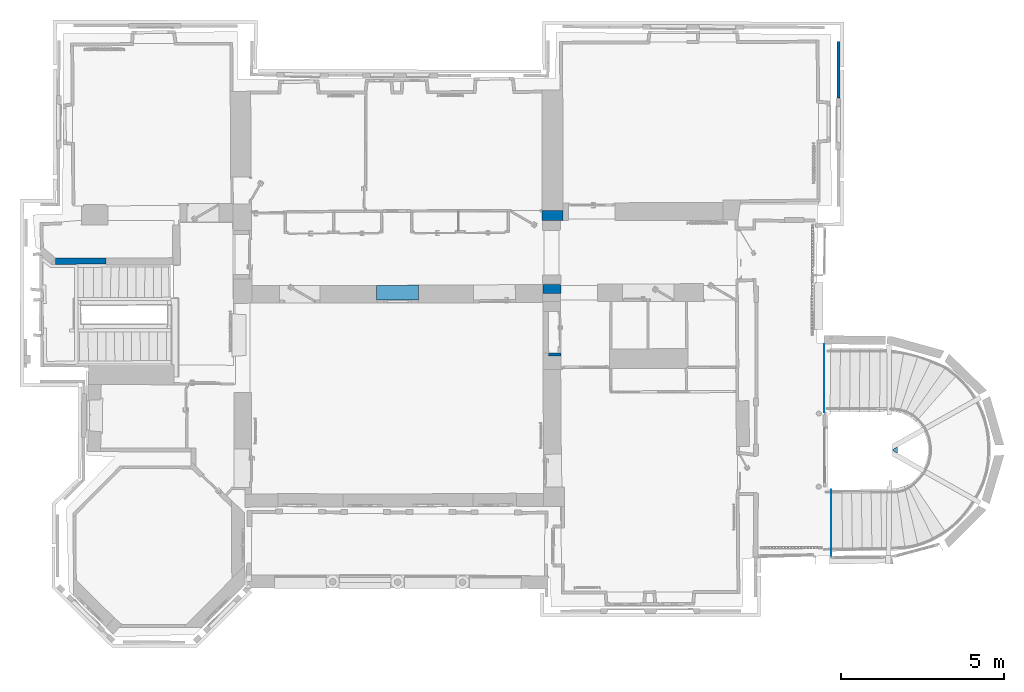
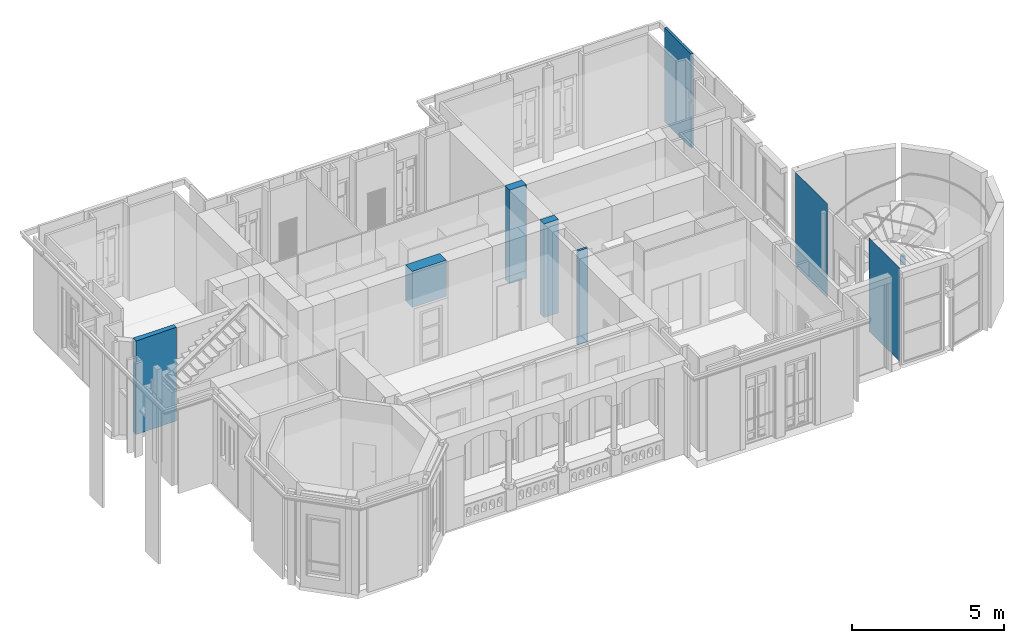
# One storey, part 18 of 66: 9 walls.
"""IFC2X3 building model written with IfcOpenShell, lengths in centimetres."""

import ifcopenshell
import ifcopenshell.guid

model = None  # the IFC model being written
_history = None  # IfcOwnerHistory: only IFC2X3 demands one
_inside = {}  # id of a spatial element -> (the spatial element, [elements in it])
_under = {}  # id of a project, library or spatial element -> (it, [spatial elements below it])
_declared = {}  # id of a project -> (the project, [libraries it declares])
_typed = {}  # id of a type object -> (the type object, [elements of that type])
_made_of = {}  # id of a material, layer set ... -> (it, [elements and type objects made of it])


def new_model(schema):
    """Start an empty IFC model of exactly this schema.

    Asked for "IFC4X3", IfcOpenShell would pick the latest addendum, in which some entities
    have other attributes; the version numbers below select the first issue.
    IFC2X3 requires an IfcOwnerHistory on every rooted entity: one is made here for all.
    """
    global model, _history
    if schema == "IFC4X3":
        model = ifcopenshell.file(schema_version=(4, 3, 0, 0))
    else:
        model = ifcopenshell.file(schema=schema)
    _inside.clear()
    _under.clear()
    _declared.clear()
    _typed.clear()
    _made_of.clear()
    _history = None
    if model.schema == "IFC2X3":
        org = make("IfcOrganization", Name="unknown")
        user = make(
            "IfcPersonAndOrganization",
            ThePerson=make("IfcPerson", FamilyName="unknown"),
            TheOrganization=org,
        )
        app = make(
            "IfcApplication",
            ApplicationDeveloper=org,
            Version="unknown",
            ApplicationFullName="unknown",
            ApplicationIdentifier="unknown",
        )
        _history = make(
            "IfcOwnerHistory",
            OwningUser=user,
            OwningApplication=app,
            ChangeAction="ADDED",
            CreationDate=0,
        )
    return model


def make(cls, **values):
    """One entity of the class cls with the attributes given. An attribute that is None is left unset."""
    return model.create_entity(
        cls, **{name: value for name, value in values.items() if value is not None}
    )


def entity(cls, *values):
    """Any entity or typed value of the class cls, its attributes in the order of the schema. None: left unset."""
    e = model.create_entity(cls)
    for i, value in enumerate(values):
        if value is not None:
            e[i] = value
    return e


def rooted(cls, **values):
    """An entity with a GlobalId (a new one), such as an element, a storey or a relation."""
    return make(cls, GlobalId=ifcopenshell.guid.new(), OwnerHistory=_history, **values)


def si_unit(unit_type, name, prefix=None):
    """IfcSIUnit, for example si_unit("LENGTHUNIT", "METRE", prefix="MILLI")."""
    return make("IfcSIUnit", UnitType=unit_type, Prefix=prefix, Name=name)


def converted_unit(unit_type, name, factor, base, dimensions=None, offset=None):
    """IfcConversionBasedUnit, such as the inch: factor (a typed value) times the base unit."""
    return make(
        "IfcConversionBasedUnit"
        if offset is None
        else "IfcConversionBasedUnitWithOffset",
        ConversionOffset=offset,
        Dimensions=None
        if dimensions is None
        else entity("IfcDimensionalExponents", *dimensions),
        UnitType=unit_type,
        Name=name,
        ConversionFactor=make(
            "IfcMeasureWithUnit", ValueComponent=factor, UnitComponent=base
        ),
    )


def assignment(units):
    """IfcUnitAssignment: the units of a project."""
    return None if units is None else make("IfcUnitAssignment", Units=units)


def point(xyz):
    """IfcCartesianPoint."""
    return None if xyz is None else make("IfcCartesianPoint", Coordinates=xyz)


def direction(xyz):
    """IfcDirection."""
    return None if xyz is None else make("IfcDirection", DirectionRatios=xyz)


def frame(location, z_axis=None, x_axis=None):
    """IfcAxis2Placement3D, a coordinate frame: its origin and axes. An axis left out is left unset."""
    return make(
        "IfcAxis2Placement3D",
        Location=point(location),
        Axis=direction(z_axis),
        RefDirection=direction(x_axis),
    )


def origin():
    """The frame at (0, 0, 0) with its axes left unset."""
    return frame((0.0, 0.0, 0.0))


def origin_with_axes():
    """The frame at (0, 0, 0) with the z axis (0, 0, 1) and the x axis (1, 0, 0) written out."""
    return frame((0.0, 0.0, 0.0), z_axis=(0.0, 0.0, 1.0), x_axis=(1.0, 0.0, 0.0))


def place(relative_to, where):
    """IfcLocalPlacement: puts the frame where relative to a parent placement (None: the world)."""
    return make(
        "IfcLocalPlacement", PlacementRelTo=relative_to, RelativePlacement=where
    )


def context(
    kind, dimensions, precision=None, world=None, true_north=None, identifier=None
):
    """IfcGeometricRepresentationContext, for example the 3D "Model" context."""
    return make(
        "IfcGeometricRepresentationContext",
        ContextIdentifier=identifier,
        ContextType=kind,
        CoordinateSpaceDimension=dimensions,
        Precision=precision,
        WorldCoordinateSystem=world,
        TrueNorth=true_north,
    )


def subcontext(parent, identifier, kind, view, scale=None):
    """IfcGeometricRepresentationSubContext, for example "Body" below "Model"."""
    return make(
        "IfcGeometricRepresentationSubContext",
        ContextIdentifier=identifier,
        ContextType=kind,
        ParentContext=parent,
        TargetScale=scale,
        TargetView=view,
    )


def project(units=None, contexts=None):
    """IfcProject with its units and contexts."""
    return rooted(
        "IfcProject",
        Name="project",
        RepresentationContexts=contexts,
        UnitsInContext=assignment(units),
    )


def spatial(cls, under=None, at=None, **own):
    """A site, building, storey or space (cls), placed at a placement, below another one or the project."""
    s = rooted(cls, ObjectPlacement=at, **own)
    if under is not None:
        _under.setdefault(under.id(), (under, []))[1].append(s)
    return s


def polyline(points):
    """IfcPolyline through the points."""
    return make("IfcPolyline", Points=[point(p) for p in points])


def outline(outer, holes=None, kind="AREA"):
    """IfcArbitraryClosedProfileDef: a profile drawn as a closed curve; with holes, ...WithVoids."""
    if holes is None:
        return make("IfcArbitraryClosedProfileDef", ProfileType=kind, OuterCurve=outer)
    return make(
        "IfcArbitraryProfileDefWithVoids",
        ProfileType=kind,
        OuterCurve=outer,
        InnerCurves=holes,
    )


def extrude(swept, where, along, depth):
    """IfcExtrudedAreaSolid: the profile swept, set in the frame where, extruded along a direction by depth."""
    return make(
        "IfcExtrudedAreaSolid",
        SweptArea=swept,
        Position=where,
        ExtrudedDirection=direction(along),
        Depth=depth,
    )


def faces_of(points, faces, orient=None, outer=None):
    """IfcFace entities. A face is a list of loops; a loop is a list of indices into points, from 0.

    orient and outer hold one flag for each loop. By default every Orientation is true, the
    first loop of a face is its IfcFaceOuterBound and the others are IfcFaceBound.
    """
    made = []
    for i, loops in enumerate(faces):
        bounds = []
        for j, loop in enumerate(loops):
            is_outer = j == 0 if outer is None else outer[i][j]
            bounds.append(
                make(
                    "IfcFaceOuterBound" if is_outer else "IfcFaceBound",
                    Bound=make("IfcPolyLoop", Polygon=[points[k] for k in loop]),
                    Orientation=True if orient is None else orient[i][j],
                )
            )
        made.append(make("IfcFace", Bounds=bounds))
    return made


def faceted_brep(points, faces, orient=None, outer=None, voids=None):
    """IfcFacetedBrep: a solid bounded by flat faces; with voids (closed shells), ...WithVoids."""
    shared = [point(p) for p in points]
    hull = make("IfcClosedShell", CfsFaces=faces_of(shared, faces, orient, outer))
    if voids is None:
        return make("IfcFacetedBrep", Outer=hull)
    return make(
        "IfcFacetedBrepWithVoids",
        Outer=hull,
        Voids=[
            make(cls, CfsFaces=faces_of(shared, fs, o, b)) for cls, fs, o, b in voids
        ],
    )


def shape(context_of_items, identifier, shape_type, items):
    """IfcShapeRepresentation: the items that make up one representation, for example the "Body"."""
    return make(
        "IfcShapeRepresentation",
        ContextOfItems=context_of_items,
        RepresentationIdentifier=identifier,
        RepresentationType=shape_type,
        Items=items,
    )


def material(Name=None, Category=None):
    """IfcMaterial."""
    return make("IfcMaterial", Name=Name, Category=Category)


def layer(
    of_material, thickness, ventilated=None, Name=None, Category=None, Priority=None
):
    """IfcMaterialLayer: one layer of a wall or slab, of a material (None: an air gap)."""
    return make(
        "IfcMaterialLayer",
        Material=of_material,
        LayerThickness=thickness,
        IsVentilated=ventilated,
        Name=Name,
        Category=Category,
        Priority=Priority,
    )


def layer_set(layers, Name=None):
    """IfcMaterialLayerSet."""
    return make("IfcMaterialLayerSet", MaterialLayers=layers, LayerSetName=Name)


def layer_usage(for_layer_set, set_direction, sense, offset, extent=None):
    """IfcMaterialLayerSetUsage: how a layer set lies in its element."""
    return make(
        "IfcMaterialLayerSetUsage",
        ForLayerSet=for_layer_set,
        LayerSetDirection=set_direction,
        DirectionSense=sense,
        OffsetFromReferenceLine=offset,
        ReferenceExtent=extent,
    )


def made_of(thing, what):
    """Note that an element or type object is made of a material, layer set ...; save() writes the relation."""
    if what is not None:
        _made_of.setdefault(what.id(), (what, []))[1].append(thing)
    return thing


def type_object(cls, material=None, **own):
    """A type object (cls), such as IfcWallType, which elements share."""
    return made_of(rooted(cls, **own), material)


def element(
    cls,
    number,
    at=None,
    inside=None,
    cuts=None,
    type_object=None,
    material=None,
    context=None,
    identifier="Body",
    shape_type=None,
    held_by="IfcProductDefinitionShape",
    body=None,
    shapes=None,
    **own,
):
    """One element of the class cls, such as IfcWall. Its Tag is "e" and its number.

    at: its placement. inside: the storey or other place that contains it. cuts: it is an
    opening in that element (IfcRelVoidsElement). A single representation is given by context,
    identifier, shape_type and body (its items); several are given by shapes. held_by: the class
    of the entity that holds the representations. save() writes the other relations.
    """
    e = rooted(cls, Tag="e%d" % number, ObjectPlacement=at, **own)
    if body is not None:
        shapes = [shape(context, identifier, shape_type, body)]
    if shapes is not None:
        e.Representation = make(held_by, Representations=shapes)
    if inside is not None:
        _inside.setdefault(inside.id(), (inside, []))[1].append(e)
    if cuts is not None:
        rooted(
            "IfcRelVoidsElement", RelatingBuildingElement=cuts, RelatedOpeningElement=e
        )
    if type_object is not None:
        _typed.setdefault(type_object.id(), (type_object, []))[1].append(e)
    return made_of(e, material)


def aggregate(whole, parts):
    """IfcRelAggregates: a whole, such as a stair, and the parts it consists of."""
    return rooted("IfcRelAggregates", RelatingObject=whole, RelatedObjects=parts)


def save(model, path):
    """Write the relations noted so far, then the file.

    IfcRelAggregates (storeys below a building ...), IfcRelContainedInSpatialStructure (elements
    in a storey), IfcRelDefinesByType, IfcRelAssociatesMaterial and IfcRelDeclares: one each for
    every whole, place, type object, material and project.
    """
    for whole, parts in _under.values():
        aggregate(whole, parts)
    for where, things in _inside.values():
        rooted(
            "IfcRelContainedInSpatialStructure",
            RelatedElements=things,
            RelatingStructure=where,
        )
    for kind, things in _typed.values():
        rooted("IfcRelDefinesByType", RelatedObjects=things, RelatingType=kind)
    for what, things in _made_of.values():
        rooted("IfcRelAssociatesMaterial", RelatedObjects=things, RelatingMaterial=what)
    for by, libraries in _declared.values():
        rooted("IfcRelDeclares", RelatingContext=by, RelatedDefinitions=libraries)
    model.write(path)


model = new_model("IFC2X3")

# Units and contexts
model_context = context("Model", 3, precision=0.0001, world=origin(), true_north=direction((0.225632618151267, 0.974212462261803, 0.0)))
body_context = subcontext(model_context, "Body", "Model", "MODEL_VIEW")
ifc_project = project(units=[si_unit("LENGTHUNIT", "METRE", prefix="CENTI"), si_unit("AREAUNIT", "SQUARE_METRE", prefix="CENTI"), si_unit("VOLUMEUNIT", "CUBIC_METRE", prefix="CENTI"), converted_unit("PLANEANGLEUNIT", "DEGREE", entity("IfcRatioMeasure", 0.0174532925), si_unit("PLANEANGLEUNIT", "RADIAN"), dimensions=[0, 0, 0, 0, 0, 0, 0])], contexts=[model_context])

# Site, building, storey
site_placement = place(None, origin_with_axes())
site = spatial("IfcSite", under=ifc_project, at=site_placement, Name="Default Site", CompositionType="ELEMENT")
building_placement = place(site_placement, origin_with_axes())
building = spatial("IfcBuilding", under=site, at=building_placement, Name="Default Building", CompositionType="ELEMENT")
storey_placement = place(building_placement, frame((0.0, 0.0, 477.795358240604), z_axis=(0.0, 0.0, 1.0), x_axis=(1.0, 0.0, 0.0)))
storey = spatial("IfcBuildingStorey", under=building, at=storey_placement, Name="Niveau 1", CompositionType="ELEMENT", Elevation=477.795358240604)

# Walls
ifc_material = material(Name="<aucun>")
ifc_layer_1 = layer(ifc_material, 9.0)
ifc_layer_set_1 = layer_set([ifc_layer_1], Name="default")
ifc_layer_usage_1 = layer_usage(ifc_layer_set_1, "AXIS2", "POSITIVE", -4.5)
wall_type_1 = type_object("IfcWallType", Name="default 90", PredefinedType="NOTDEFINED", material=ifc_layer_set_1)
wall_1_placement = place(storey_placement, frame((291.478428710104, -253.673960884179, 0.0128503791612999), z_axis=(0.0, 0.0, 1.0), x_axis=(-0.99994278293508, 0.0106972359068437, 0.0)))
element("IfcWall", 1, at=wall_1_placement, inside=storey, type_object=wall_type_1, material=ifc_layer_usage_1, Name="Enveloppe 119941", context=body_context, shape_type="Brep", body=[
    faceted_brep([(8.54734518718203e-06, 4.50000083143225, 376.102142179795), (37.8645951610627, 4.50000081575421, 376.102142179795), (37.8645951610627, 4.50000081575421, -1.92276754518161e-05), (8.54734518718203e-06, 4.50000083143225, -1.92276754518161e-05), (1.03090515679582e-05, -4.50000484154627, -1.92276754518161e-05), (37.8645969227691, -4.5000048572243, -1.92276754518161e-05), (37.8645969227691, -4.5000048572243, 376.102142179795), (1.03090515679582e-05, -4.50000484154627, 376.102142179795), (8.54361868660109e-06, -4.50000484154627, -1.92276754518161e-05), (8.54361868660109e-06, -4.50000484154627, 376.102142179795), (37.8645951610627, 4.49999792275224, 376.102142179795), (37.8645951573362, -4.50000775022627, 376.102142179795), (37.8645951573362, -4.50000775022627, -1.92276754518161e-05), (37.8645951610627, 4.49999792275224, -1.92276754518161e-05), (37.8645969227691, -4.50000775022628, 376.102142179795), (37.8645969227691, -4.50000775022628, -1.92276754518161e-05)], [[[0, 1, 2, 3]], [[4, 5, 6, 7]], [[3, 8, 9, 0]], [[10, 11, 12, 13]], [[7, 14, 10, 0]], [[3, 13, 15, 4]]]),
])
ifc_layer_2 = layer(ifc_material, 0.0101999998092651)
ifc_layer_set_2 = layer_set([ifc_layer_2], Name="default")
ifc_layer_usage_2 = layer_usage(ifc_layer_set_2, "AXIS2", "POSITIVE", -0.0051)
wall_type_2 = type_object("IfcWallType", Name="default 0.101999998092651", PredefinedType="NOTDEFINED", material=ifc_layer_set_2)
wall_2_placement = place(storey_placement, frame((1100.98910495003, -441.769497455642, 0.0128503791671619), z_axis=(0.0, 0.0, 1.0), x_axis=(-0.00337038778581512, 0.999994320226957, 0.0)))
element("IfcWall", 2, at=wall_2_placement, inside=storey, type_object=wall_type_2, material=ifc_layer_usage_2, Name="Enveloppe fantôme 774974", context=body_context, shape_type="Brep", body=[
    faceted_brep([(220.206550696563, 1.72007879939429e-05, -1.92276812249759e-05), (11.1026370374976, 1.72283345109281e-05, -1.92276812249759e-05), (11.1026370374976, 1.72283345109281e-05, 376.102142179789), (220.206550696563, 1.72007879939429e-05, 376.102142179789), (11.1026370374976, 1.31575033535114e-05, -1.92276812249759e-05), (220.206550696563, 1.31299568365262e-05, -1.92276812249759e-05), (220.206550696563, 1.31299568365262e-05, 376.102142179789), (11.1026370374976, 1.31575033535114e-05, 376.102142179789)], [[[0, 1, 2, 3]], [[4, 5, 6, 7]]]),
])
ifc_layer_usage_3 = layer_usage(ifc_layer_set_2, "AXIS2", "POSITIVE", -0.0051)
wall_3_placement = place(storey_placement, frame((1122.63703735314, -872.835106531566, 0.0128503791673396), z_axis=(0.0, 0.0, 1.0), x_axis=(-0.0046621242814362, 0.999989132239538, 0.0)))
element("IfcWall", 3, at=wall_3_placement, inside=storey, type_object=wall_type_2, material=ifc_layer_usage_3, Name="Enveloppe fantôme 775100", context=body_context, shape_type="Brep", body=[
    faceted_brep([(203.272973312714, 3.38782683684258e-05, -1.92276814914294e-05), (0.248191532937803, 3.38647222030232e-05, -1.92276814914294e-05), (0.248191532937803, 3.38647222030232e-05, 376.102142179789), (203.272973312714, 3.38782683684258e-05, 376.102142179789), (0.248191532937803, 3.88841582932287e-05, -1.92276814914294e-05), (203.272973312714, 3.88977044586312e-05, -1.92276814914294e-05), (203.272973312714, 3.88977044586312e-05, 376.102142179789), (0.248191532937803, 3.88841582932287e-05, 376.102142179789)], [[[0, 1, 2, 3]], [[4, 5, 6, 7]]]),
])
ifc_layer_3 = layer(ifc_material, 55.0)
ifc_layer_set_3 = layer_set([ifc_layer_3], Name="default")
ifc_layer_usage_4 = layer_usage(ifc_layer_set_3, "AXIS2", "POSITIVE", -27.5)
wall_type_3 = type_object("IfcWallType", Name="default 550", PredefinedType="NOTDEFINED", material=ifc_layer_set_3)
wall_4_placement = place(storey_placement, frame((263.112902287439, -66.9248295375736, 0.0128503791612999), z_axis=(0.0, 0.0, 1.0), x_axis=(-0.00303669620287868, 0.999995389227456, 0.0)))
element("IfcWall", 4, at=wall_4_placement, inside=storey, type_object=wall_type_3, material=ifc_layer_usage_4, Name="Enveloppe 92931", context=body_context, shape_type="Brep", body=[
    faceted_brep([(-1.69704915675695e-06, 27.4999929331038, 376.102142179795), (27.9948346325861, 27.4999929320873, 376.102142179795), (27.9948346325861, 27.4999929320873, -1.9227675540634e-05), (-1.69704915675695e-06, 27.4999929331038, -1.9227675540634e-05), (-1.77227982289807e-06, -27.4999936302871, -1.9227675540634e-05), (27.994834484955, -27.4999936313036, -1.9227675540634e-05), (27.994834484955, -27.4999936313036, 376.102142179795), (-1.77227982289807e-06, -27.4999936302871, 376.102142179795), (-1.69904616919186e-06, -27.4999936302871, -1.9227675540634e-05), (-1.69904616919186e-06, -27.4999936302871, 376.102142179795), (27.9948346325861, 27.5000011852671, 376.102142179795), (27.9948346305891, -27.5000092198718, 376.102142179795), (27.9948346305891, -27.5000092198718, -1.9227675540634e-05), (27.9948346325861, 27.5000011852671, -1.9227675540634e-05), (27.994834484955, -27.5000092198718, 376.102142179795), (27.994834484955, -27.5000092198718, -1.9227675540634e-05)], [[[0, 1, 2, 3]], [[4, 5, 6, 7]], [[3, 8, 9, 0]], [[10, 11, 12, 13]], [[7, 14, 10, 0]], [[3, 13, 15, 4]]]),
])
ifc_layer_4 = layer(ifc_material, 45.0)
ifc_layer_set_4 = layer_set([ifc_layer_4], Name="default")
ifc_layer_usage_5 = layer_usage(ifc_layer_set_4, "AXIS2", "POSITIVE", -22.5)
wall_type_4 = type_object("IfcWallType", Name="default 450", PredefinedType="NOTDEFINED", material=ifc_layer_set_4)
wall_5_placement = place(storey_placement, frame((-275.593568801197, -63.9212882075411, 231.0), z_axis=(0.0, 0.0, 1.0), x_axis=(0.999985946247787, 0.00530163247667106, 0.0)))
element("IfcWall", 5, at=wall_5_placement, inside=storey, type_object=wall_type_4, material=ifc_layer_usage_5, Name="Enveloppe 104962", context=body_context, shape_type="Brep", body=[
    faceted_brep([(7.82353724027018e-06, 22.5000002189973, 145.114992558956), (128.882236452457, 22.5000002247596, 145.114992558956), (128.882236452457, 22.5000002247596, -1.49011585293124e-06), (7.82353724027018e-06, 22.5000002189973, -1.49011585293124e-06), (-4.00440960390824e-06, -22.4999991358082, -1.49011585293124e-06), (128.882236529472, -22.499999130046, -1.49011585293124e-06), (128.882236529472, -22.499999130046, 145.114992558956), (-4.00440960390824e-06, -22.4999991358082, 145.114992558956), (7.82554916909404e-06, -22.4999991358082, -1.49011585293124e-06), (7.82554916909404e-06, -22.4999991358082, 145.114992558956), (128.882236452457, 22.50000079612, 145.114992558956), (128.882236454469, -22.5000016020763, 145.114992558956), (128.882236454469, -22.5000016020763, -1.49011585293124e-06), (128.882236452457, 22.50000079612, -1.49011585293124e-06), (128.882236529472, -22.5000016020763, 145.114992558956), (128.882236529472, -22.5000016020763, -1.49011585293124e-06)], [[[0, 1, 2, 3]], [[4, 5, 6, 7]], [[3, 8, 9, 0]], [[10, 11, 12, 13]], [[7, 14, 10, 0]], [[3, 13, 15, 4]]]),
])
ifc_layer_5 = layer(ifc_material, 18.0)
ifc_layer_set_5 = layer_set([ifc_layer_5], Name="default")
ifc_layer_usage_6 = layer_usage(ifc_layer_set_5, "AXIS2", "POSITIVE", -9.0)
wall_type_5 = type_object("IfcWallType", Name="default 180", PredefinedType="NOTDEFINED", material=ifc_layer_set_5)
wall_6_placement = place(storey_placement, frame((-1262.12382001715, 33.9683764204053, 0.0128503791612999), z_axis=(0.0, 0.0, 1.0), x_axis=(0.999999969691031, 0.000246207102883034, 0.0)))
element("IfcWall", 6, at=wall_6_placement, inside=storey, type_object=wall_type_5, material=ifc_layer_usage_6, Name="Enveloppe 94350", context=body_context, shape_type="Brep", body=[
    faceted_brep([(-2.84191301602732e-05, 9.00000133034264, 376.102142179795), (154.152941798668, 9.00000133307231, 376.102142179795), (154.152941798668, 9.00000133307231, -1.92276753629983e-05), (-2.84191301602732e-05, 9.00000133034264, -1.92276753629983e-05), (2.8269207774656e-05, -11.2991106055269, -1.92276753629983e-05), (154.152896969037, -8.99999999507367, -1.92276753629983e-05), (154.152896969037, -8.99999999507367, 376.102142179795), (2.8269207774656e-05, -11.2991106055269, 376.102142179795), (-2.84187707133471e-05, -11.2991106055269, -1.92276753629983e-05), (-2.84187707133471e-05, -11.2991106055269, 376.102142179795), (154.152941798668, 9.00000103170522, 376.102142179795), (154.152941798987, -9.00000021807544, 376.102142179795), (154.152941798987, -9.00000021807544, -1.92276753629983e-05), (154.152941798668, 9.00000103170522, -1.92276753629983e-05), (154.152896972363, -9.00000021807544, 376.102142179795), (154.152896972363, -9.00000021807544, -1.92276753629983e-05)], [[[0, 1, 2, 3]], [[4, 5, 6, 7]], [[3, 8, 9, 0]], [[10, 11, 12, 13]], [[7, 14, 10, 0]], [[3, 13, 15, 4]]]),
])
ifc_layer_6 = layer(ifc_material, 63.0)
ifc_layer_set_6 = layer_set([ifc_layer_6], Name="default")
ifc_layer_usage_7 = layer_usage(ifc_layer_set_6, "AXIS2", "POSITIVE", -31.5)
wall_type_6 = type_object("IfcWallType", Name="default 630", PredefinedType="NOTDEFINED", material=ifc_layer_set_6)
wall_7_placement = place(storey_placement, frame((266.332350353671, 157.538818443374, 0.0128503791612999), z_axis=(0.0, 0.0, 1.0), x_axis=(-0.00303669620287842, 0.999995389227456, 0.0)))
element("IfcWall", 7, at=wall_7_placement, inside=storey, type_object=wall_type_6, material=ifc_layer_usage_7, Name="Enveloppe 103178", context=body_context, shape_type="Brep", body=[
    faceted_brep([(-1.55764310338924e-06, 32.7232063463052, 376.102142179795), (30.8932382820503, 32.632288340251, 376.102142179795), (30.8932382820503, 32.632288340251, -1.9227675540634e-05), (-1.55764310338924e-06, 32.7232063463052, -1.9227675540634e-05), (-1.52008259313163e-06, -31.4999977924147, -1.9227675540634e-05), (30.8932402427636, -31.4999977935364, -1.9227675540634e-05), (30.8932402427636, -31.4999977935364, 376.102142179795), (-1.52008259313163e-06, -31.4999977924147, 376.102142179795), (-1.55997498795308e-06, -31.4999977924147, -1.9227675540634e-05), (-1.55997498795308e-06, -31.4999977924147, 376.102142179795), (30.8932382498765, 32.6322774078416, 376.102142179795), (30.8932382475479, -31.4999934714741, 376.102142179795), (30.8932382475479, -31.4999934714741, -1.9227675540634e-05), (30.8932382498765, 32.6322774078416, -1.9227675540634e-05), (30.8932402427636, -31.4999934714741, 376.102142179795), (30.8932402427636, -31.4999934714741, -1.9227675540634e-05)], [[[0, 1, 2, 3]], [[4, 5, 6, 7]], [[3, 8, 9, 0]], [[10, 11, 12, 13]], [[7, 14, 10, 0]], [[3, 13, 15, 4]]]),
])
ifc_layer_7 = layer(ifc_material, 15.0)
ifc_layer_set_7 = layer_set([ifc_layer_7], Name="default")
ifc_layer_usage_8 = layer_usage(ifc_layer_set_7, "AXIS2", "POSITIVE", -7.5)
wall_type_7 = type_object("IfcWallType", Name="default 150", PredefinedType="NOTDEFINED", material=ifc_layer_set_7)
wall_8_placement = place(storey_placement, frame((1317.78974982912, -566.163359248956, 128.0), z_axis=(0.0, 0.0, 1.0), x_axis=(-0.00173266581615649, 0.999998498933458, 0.0)))
element("IfcWallStandardCase", 8, at=wall_8_placement, inside=storey, type_object=wall_type_7, material=ifc_layer_usage_8, Name="Enveloppe 1696959", context=body_context, shape_type="SweptSolid", body=[
    extrude(outline(polyline([(17.2395071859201, 7.49999999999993), (8.74242708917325, -7.50000000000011), (27.9496989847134, -7.50000000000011), (19.5731138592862, 7.49999999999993), (17.2395071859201, 7.49999999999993)])), origin_with_axes(), (0.0, 0.0, 1.0), 36.0),
])
ifc_layer_usage_9 = layer_usage(ifc_layer_set_1, "AXIS2", "POSITIVE", -4.5)
wall_type_8 = type_object("IfcWallType", Name="default 90", PredefinedType="NOTDEFINED", material=ifc_layer_set_1)
wall_9_placement = place(storey_placement, frame((1144.88350307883, 534.005793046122, 0.0128503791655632), z_axis=(0.0, 0.0, 1.0), x_axis=(0.000623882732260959, 0.999999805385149, 0.0)))
element("IfcWallStandardCase", 9, at=wall_9_placement, inside=storey, type_object=wall_type_8, material=ifc_layer_usage_9, Name="Enveloppe 424767", context=body_context, shape_type="SweptSolid", body=[
    extrude(outline(polyline([(-0.000894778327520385, 4.49999944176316), (-0.024507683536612, -4.49999999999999), (174.305621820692, -4.49999999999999), (174.305621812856, 4.50001256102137), (-0.000894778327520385, 4.49999944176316)])), frame((0.0, 0.0, -8.88178419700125e-14), z_axis=(0.0, 0.0, 1.0), x_axis=(1.0, 0.0, 0.0)), (0.0, 0.0, 1.0), 376.102165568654),
])

save(model, "model.ifc")
